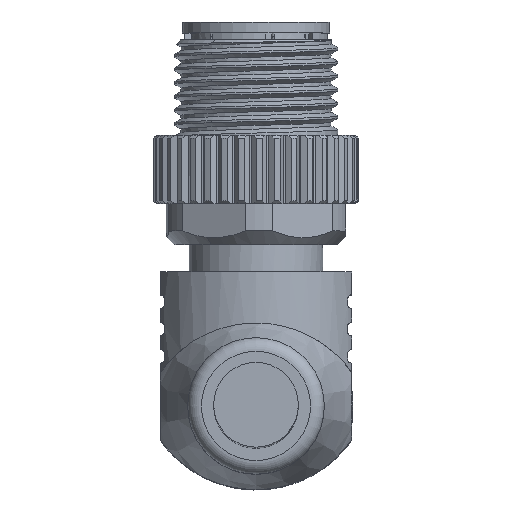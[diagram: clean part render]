
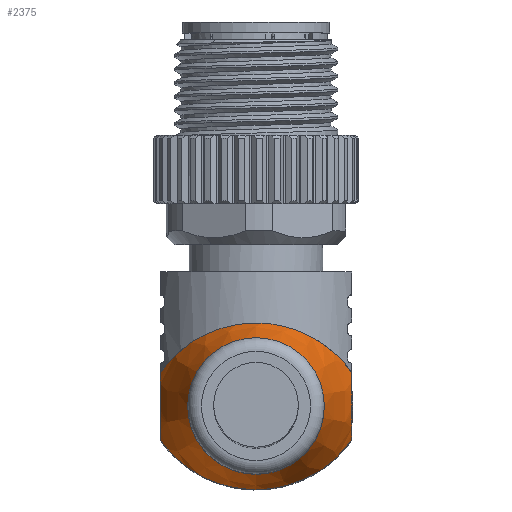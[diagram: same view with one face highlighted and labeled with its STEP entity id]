
A CAD part, top view. The second image highlights one B-rep face of the part: STEP entity #2375.
In plain terms, the highlighted conical face has half-angle 19.816 degrees and reference radius 8.308 mm.
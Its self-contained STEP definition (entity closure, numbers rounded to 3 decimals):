
#189=CONICAL_SURFACE('',#10532,8.308,19.816);
#278=FACE_BOUND('',#3626,.T.);
#279=FACE_BOUND('',#3627,.T.);
#2375=ADVANCED_FACE('',(#278,#279),#189,.T.);
#3626=EDGE_LOOP('',(#6569));
#3627=EDGE_LOOP('',(#6570,#6571,#6572,#6573));
#4030=B_SPLINE_CURVE_WITH_KNOTS('',3,(#18789,#18790,#18791,#18792,#18793,
#18794,#18795,#18796,#18797,#18798),.UNSPECIFIED.,.F.,.F.,(4,2,2,2,4),(0.,
0.25,0.5,0.75,1.),.UNSPECIFIED.);
#4031=B_SPLINE_CURVE_WITH_KNOTS('',3,(#18801,#18802,#18803,#18804,#18805,
#18806),.UNSPECIFIED.,.F.,.F.,(4,2,4),(0.,0.5,1.),.UNSPECIFIED.);
#4032=B_SPLINE_CURVE_WITH_KNOTS('',3,(#18808,#18809,#18810,#18811,#18812,
#18813,#18814,#18815,#18816,#18817),.UNSPECIFIED.,.F.,.F.,(4,2,2,2,4),(0.,
0.25,0.5,0.75,1.),.UNSPECIFIED.);
#4033=B_SPLINE_CURVE_WITH_KNOTS('',3,(#18819,#18820,#18821,#18822,#18823,
#18824),.UNSPECIFIED.,.F.,.F.,(4,2,4),(0.,0.5,1.),.UNSPECIFIED.);
#6569=ORIENTED_EDGE('',*,*,#9005,.F.);
#6570=ORIENTED_EDGE('',*,*,#9120,.F.);
#6571=ORIENTED_EDGE('',*,*,#9121,.F.);
#6572=ORIENTED_EDGE('',*,*,#9122,.F.);
#6573=ORIENTED_EDGE('',*,*,#9123,.F.);
#7683=VERTEX_POINT('',#18384);
#7741=VERTEX_POINT('',#18799);
#7742=VERTEX_POINT('',#18800);
#7743=VERTEX_POINT('',#18807);
#7744=VERTEX_POINT('',#18818);
#9005=EDGE_CURVE('',#7683,#7683,#9644,.T.);
#9120=EDGE_CURVE('',#7741,#7742,#4030,.T.);
#9121=EDGE_CURVE('',#7743,#7741,#4031,.T.);
#9122=EDGE_CURVE('',#7744,#7743,#4032,.T.);
#9123=EDGE_CURVE('',#7742,#7744,#4033,.T.);
#9644=CIRCLE('',#10484,5.);
#10484=AXIS2_PLACEMENT_3D('',#18383,#12745,#12746);
#10532=AXIS2_PLACEMENT_3D('',#18825,#12948,#12949);
#12745=DIRECTION('',(0.,0.,1.));
#12746=DIRECTION('',(0.,-1.,0.));
#12948=DIRECTION('',(0.,0.,-1.));
#12949=DIRECTION('',(0.,-1.,0.));
#18383=CARTESIAN_POINT('',(0.,-1.953,18.));
#18384=CARTESIAN_POINT('',(0.,-6.953,18.));
#18789=CARTESIAN_POINT('',(7.,-4.453,11.248));
#18790=CARTESIAN_POINT('',(6.292,-5.442,12.174));
#18791=CARTESIAN_POINT('',(5.375,-6.302,13.044));
#18792=CARTESIAN_POINT('',(3.01,-7.622,14.449));
#18793=CARTESIAN_POINT('',(1.532,-8.051,14.945));
#18794=CARTESIAN_POINT('',(-1.511,-8.054,14.949));
#18795=CARTESIAN_POINT('',(-3.,-7.625,14.452));
#18796=CARTESIAN_POINT('',(-5.355,-6.317,13.06));
#18797=CARTESIAN_POINT('',(-6.291,-5.444,12.175));
#18798=CARTESIAN_POINT('',(-7.,-4.453,11.248));
#18799=CARTESIAN_POINT('',(7.,-4.453,11.248));
#18800=CARTESIAN_POINT('',(-7.,-4.453,11.248));
#18801=CARTESIAN_POINT('',(7.,0.547,11.248));
#18802=CARTESIAN_POINT('',(7.,-0.148,11.897));
#18803=CARTESIAN_POINT('',(7.,-1.01,12.45));
#18804=CARTESIAN_POINT('',(7.,-2.899,12.449));
#18805=CARTESIAN_POINT('',(7.,-3.759,11.895));
#18806=CARTESIAN_POINT('',(7.,-4.453,11.248));
#18807=CARTESIAN_POINT('',(7.,0.547,11.248));
#18808=CARTESIAN_POINT('',(-7.,0.547,11.248));
#18809=CARTESIAN_POINT('',(-6.292,1.537,12.174));
#18810=CARTESIAN_POINT('',(-5.375,2.397,13.044));
#18811=CARTESIAN_POINT('',(-3.01,3.717,14.449));
#18812=CARTESIAN_POINT('',(-1.532,4.146,14.945));
#18813=CARTESIAN_POINT('',(1.511,4.149,14.949));
#18814=CARTESIAN_POINT('',(3.,3.719,14.452));
#18815=CARTESIAN_POINT('',(5.355,2.412,13.06));
#18816=CARTESIAN_POINT('',(6.291,1.539,12.175));
#18817=CARTESIAN_POINT('',(7.,0.547,11.248));
#18818=CARTESIAN_POINT('',(-7.,0.547,11.248));
#18819=CARTESIAN_POINT('',(-7.,-4.453,11.248));
#18820=CARTESIAN_POINT('',(-7.,-3.757,11.897));
#18821=CARTESIAN_POINT('',(-7.,-2.895,12.45));
#18822=CARTESIAN_POINT('',(-7.,-1.006,12.449));
#18823=CARTESIAN_POINT('',(-7.,-0.146,11.895));
#18824=CARTESIAN_POINT('',(-7.,0.547,11.248));
#18825=CARTESIAN_POINT('',(0.,-1.953,8.821));
